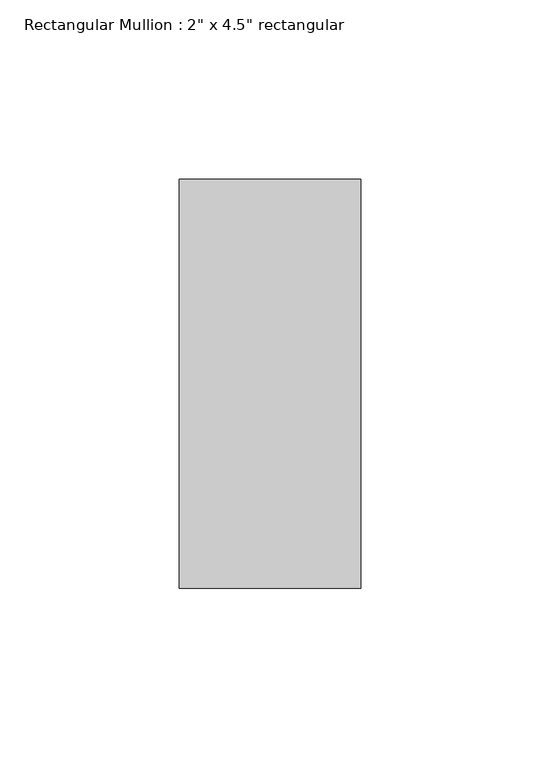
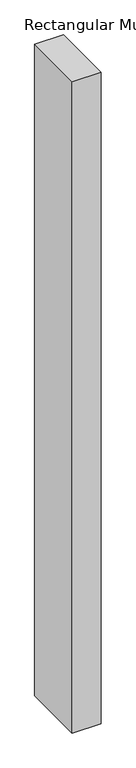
"""IFC4 building model written with IfcOpenShell, lengths in millimetres: member geometry."""

from ifc_helpers import new_model, si_unit, frame, origin, place, context, project, spatial, polyline, outline, extrude, source, transform, mapped, element, save


def member_43bac76b(model_context):
    return source(origin(), model_context, "Body", "SweptSolid", [
        extrude(outline(polyline([(0.0, 57.15), (0.0, -57.15), (-50.8, -57.15), (-50.8, 57.15), (0.0, 57.15)])), frame((0.0, 0.0, -1210.2518154), z_axis=(0.0, 0.0, 1.0), x_axis=(1.0, 0.0, 0.0)), (0.0, 0.0, 1.0), 1210.2518154),
    ])


if __name__ == "__main__":
    model = new_model("IFC4")
    model_context = context("Model", 3, world=origin())
    ifc_project = project(units=[si_unit("LENGTHUNIT", "METRE", prefix="MILLI")], contexts=[model_context])
    site = spatial("IfcSite", under=ifc_project)
    building = spatial("IfcBuilding", under=site)
    placement = place(None, origin())
    member_shape = member_43bac76b(model_context)
    element("IfcMember", 1, ObjectType="Rectangular Mullion : 2\" x 4.5\" rectangular", at=placement, inside=building, context=model_context, shape_type="MappedRepresentation", body=[
        mapped(member_shape, transform((0.0, 0.0, 0.0), x_axis=(1.0, 0.0, 0.0), y_axis=(0.0, 1.0, 0.0), z_axis=(0.0, 0.0, 1.0))),
    ])
    save(model, "model.ifc")
